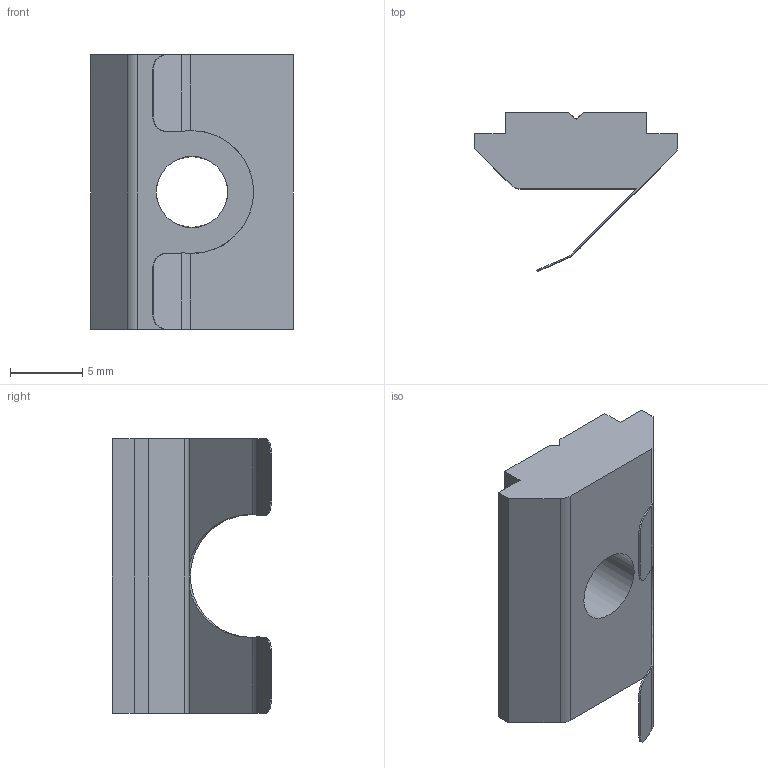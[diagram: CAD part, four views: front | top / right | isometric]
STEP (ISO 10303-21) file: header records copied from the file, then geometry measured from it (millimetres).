
FILE_DESCRIPTION((''),'2;1');
FILE_NAME('E:\catalogue and flyer\Profile catalogue 2015\Accessories JE info\Accessories-JE step file 31MAr16\JE-SN6-10.stp','2016-03-31T16:54:39',('h029'),(''),'Autodesk Inventor 11','Autodesk Inventor 11','');
FILE_SCHEMA(('AUTOMOTIVE_DESIGN { 1 0 10303 214 1 1 1 1 }'));
Length unit declared in the file: millimetre
Products named in the file (1): JE-SN6-10
Bounding box: 14 x 11 x 19 mm (x, y, z)
Volume: 1053.8 mm3; surface area: 1054.5 mm2
Topology: 1 solids, 1 shells, 44 faces, 124 edges, 81 vertices
Faces by surface type: plane 31, cylinder 10, cone 2, bspline 1
Entity records: 1459 total; most frequent: CARTESIAN_POINT 296, ORIENTED_EDGE 244, DIRECTION 231, EDGE_CURVE 122, VECTOR 85, LINE 85, VERTEX_POINT 80, AXIS2_PLACEMENT_3D 73
